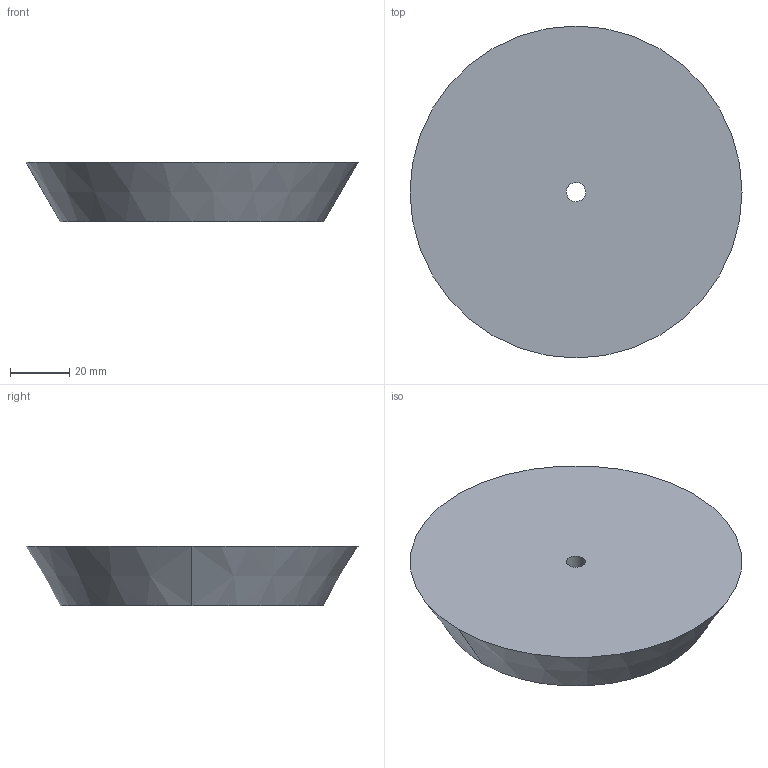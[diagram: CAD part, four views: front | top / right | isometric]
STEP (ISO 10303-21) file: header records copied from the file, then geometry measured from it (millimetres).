
FILE_DESCRIPTION(('CATIA V5 STEP Exchange'),'2;1');
FILE_NAME('C:\Users\andres.garcia\OneDrive - IQS\ASIGNATURAS\DAO\Controles\2223\c0\c1-BERTRAN_Joaquin-tapon.stp','2023-02-03T08:22:02+00:00',('none'),('none'),'CATIA Version 5-6 Release 2013 SP6','CATIA V5 STEP AP203','none');
FILE_SCHEMA(('CONFIG_CONTROL_DESIGN'));
Length unit declared in the file: millimetre
Products named in the file (1): c1-BERTRAN_Joaquin-tapon
Bounding box: 112 x 112 x 20 mm (x, y, z)
Volume: 158540.5 mm3; surface area: 23690.1 mm2
Topology: 1 solids, 1 shells, 6 faces, 12 edges, 8 vertices
Faces by surface type: cylinder 2, plane 2, cone 2
Entity records: 196 total; most frequent: CARTESIAN_POINT 26, ORIENTED_EDGE 24, DIRECTION 22, AXIS2_PLACEMENT_3D 14, EDGE_CURVE 12, CIRCLE 8, EDGE_LOOP 8, VERTEX_POINT 8
